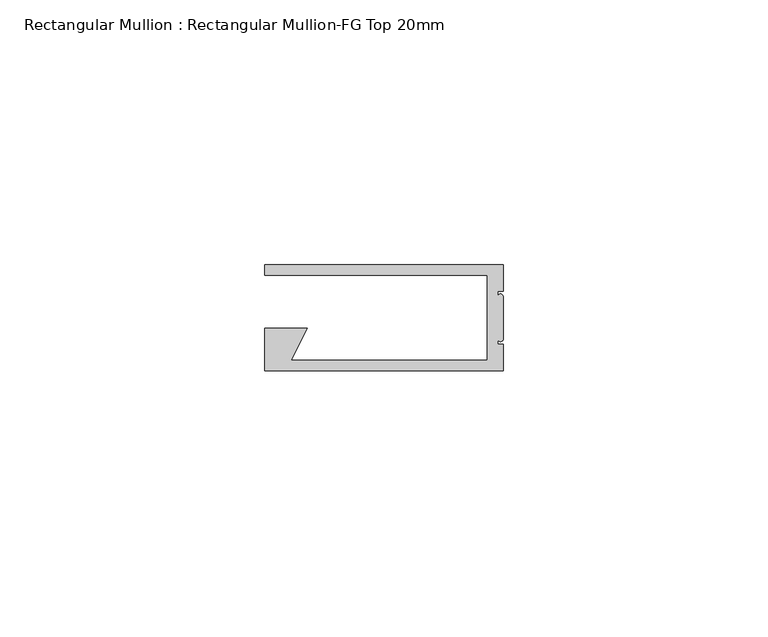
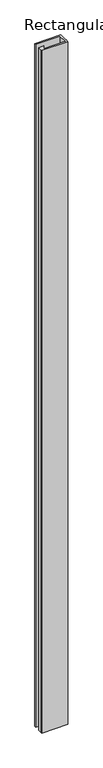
"""IFC4 building model written with IfcOpenShell, lengths in millimetres: member geometry, Rectangular Mullion : Rectangular Mullion-FG Top 20mm."""

from ifc_helpers import new_model, si_unit, frame, origin, place, context, project, spatial, circle_curve, source, transform, mapped, element, save
from ifc_brep_helpers import plane_surface, cylinder_surface, advanced_brep


def rectangular_mullion_rectangular_mullion_fg_top_20mm_12d62298(model_context):
    return source(origin(), model_context, "Body", "AdvancedBrep", [
        advanced_brep(
        [(0.0, -5.0, 0.0), (0.0, 0.0, 0.0), (-45.0, 0.0, 0.0), (-45.0, -2.0, 0.0), (-3.0, -2.0, 0.0), (-3.0, -18.0, 0.0), (-40.0, -18.0, 0.0), (-37.0, -12.0, 0.0), (-45.0, -12.0, 0.0), (-45.0, -18.0, 0.0), (-45.0, -20.0, 0.0), (0.0, -20.0, 0.0), (0.0, -15.0, 0.0), (-1.0, -15.0, 0.0), (-1.0, -14.0, 0.0), (0.0, -14.0, 0.0), (0.0, -6.0, 0.0), (-1.0, -6.0, 0.0), (-1.0, -5.0, 0.0), (0.0, -5.0, -1246.0), (-1.0, -5.0, -1246.0), (-1.0, -6.0, -1246.0), (0.0, -6.0, -1246.0), (0.0, -14.0, -1246.0), (-1.0, -14.0, -1246.0), (-1.0, -15.0, -1246.0), (0.0, -15.0, -1246.0), (0.0, -20.0, -1246.0), (-45.0, -20.0, -1246.0), (-45.0, -18.0, -1246.0), (-45.0, -12.0, -1246.0), (-37.0, -12.0, -1246.0), (-40.0, -18.0, -1246.0), (-3.0, -18.0, -1246.0), (-3.0, -2.0, -1246.0), (-45.0, -2.0, -1246.0), (-45.0, 0.0, -1246.0), (0.0, 0.0, -1246.0)],
        [
            (0, 1),
            (1, 2),
            (2, 3),
            (3, 4),
            (4, 5),
            (5, 6),
            (6, 7),
            (7, 8),
            (8, 9),
            (9, 10),
            (10, 11),
            (11, 12),
            (12, 13),
            (13, 14),
            (14, 15, circle_curve(frame((-0.5, -14.0, 0.0), z_axis=(0.0, 0.0, 1.0), x_axis=(1.0, 0.0, 0.0)), 0.5)),
            (15, 16),
            (16, 17, circle_curve(frame((-0.5, -6.0, 0.0), z_axis=(0.0, 0.0, 1.0), x_axis=(1.0, 0.0, 0.0)), 0.5)),
            (17, 18),
            (18, 0),
            (19, 20),
            (20, 21),
            (21, 22, circle_curve(frame((-0.5, -6.0, -1246.0), z_axis=(0.0, 0.0, -1.0), x_axis=(1.0, 0.0, 0.0)), 0.5)),
            (22, 23),
            (23, 24, circle_curve(frame((-0.5, -14.0, -1246.0), z_axis=(0.0, 0.0, -1.0), x_axis=(1.0, 0.0, 0.0)), 0.5)),
            (24, 25),
            (25, 26),
            (26, 27),
            (27, 28),
            (28, 29),
            (29, 30),
            (30, 31),
            (31, 32),
            (32, 33),
            (33, 34),
            (34, 35),
            (35, 36),
            (36, 37),
            (37, 19),
            (0, 19),
            (37, 1),
            (36, 2),
            (35, 3),
            (34, 4),
            (33, 5),
            (32, 6),
            (31, 7),
            (30, 8),
            (29, 9),
            (28, 10),
            (27, 11),
            (26, 12),
            (25, 13),
            (24, 14),
            (23, 15),
            (22, 16),
            (21, 17),
            (20, 18),
        ],
        [
            plane_surface(frame((0.0, -49.244289, 0.0), z_axis=(0.0, 0.0, 1.0), x_axis=(-1.0, 0.0, 0.0))),
            plane_surface(frame((0.0, -49.244289, -1246.0), z_axis=(0.0, 0.0, -1.0), x_axis=(-1.0, 0.0, 0.0))),
            plane_surface(frame((0.0, -5.0, 0.0), z_axis=(1.0, 0.0, 0.0), x_axis=(0.0, 0.0, -1.0))),
            plane_surface(frame((0.0, 0.0, 0.0), z_axis=(0.0, 1.0, 0.0), x_axis=(0.0, 0.0, -1.0))),
            plane_surface(frame((-45.0, 0.0, 0.0), z_axis=(-1.0, 0.0, 0.0), x_axis=(0.0, 0.0, -1.0))),
            plane_surface(frame((-45.0, -2.0, 0.0), z_axis=(0.0, -1.0, 0.0), x_axis=(0.0, 0.0, -1.0))),
            plane_surface(frame((-3.0, -2.0, 0.0), z_axis=(-1.0, 0.0, 0.0), x_axis=(0.0, 0.0, -1.0))),
            plane_surface(frame((-3.0, -18.0, 0.0), z_axis=(0.0, 1.0, 0.0), x_axis=(0.0, 0.0, -1.0))),
            plane_surface(frame((-40.0, -18.0, 0.0), z_axis=(0.8944271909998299, -0.4472135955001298, 0.0), x_axis=(0.0, 0.0, -1.0))),
            plane_surface(frame((-37.0, -12.0, 0.0), z_axis=(0.0, 1.0, 0.0), x_axis=(0.0, 0.0, -1.0))),
            plane_surface(frame((-45.0, -12.0, 0.0), z_axis=(-1.0, 0.0, 0.0), x_axis=(0.0, 0.0, -1.0))),
            plane_surface(frame((-45.0, -18.0, 0.0), z_axis=(-1.0, 0.0, 0.0), x_axis=(0.0, 0.0, -1.0))),
            plane_surface(frame((-45.0, -20.0, 0.0), z_axis=(0.0, -1.0, 0.0), x_axis=(0.0, 0.0, -1.0))),
            plane_surface(frame((0.0, -20.0, 0.0), z_axis=(1.0, 0.0, 0.0), x_axis=(0.0, 0.0, -1.0))),
            plane_surface(frame((0.0, -15.0, 0.0), z_axis=(0.0, 1.0, 0.0), x_axis=(0.0, 0.0, -1.0))),
            plane_surface(frame((-1.0, -15.0, 0.0), z_axis=(1.0, 0.0, 0.0), x_axis=(0.0, 0.0, -1.0))),
            cylinder_surface(frame((-0.5, -14.0, 0.0), z_axis=(0.0, 0.0, 1.0), x_axis=(1.0, 0.0, 0.0)), 0.5),
            plane_surface(frame((0.0, -14.0, 0.0), z_axis=(1.0, 0.0, 0.0), x_axis=(0.0, 0.0, -1.0))),
            cylinder_surface(frame((-0.5, -6.0, 0.0), z_axis=(0.0, 0.0, 1.0), x_axis=(1.0, 0.0, 0.0)), 0.5),
            plane_surface(frame((-1.0, -6.0, 0.0), z_axis=(1.0, 0.0, 0.0), x_axis=(0.0, 0.0, -1.0))),
            plane_surface(frame((-1.0, -5.0, 0.0), z_axis=(0.0, -1.0, 0.0), x_axis=(0.0, 0.0, -1.0))),
        ],
        [
            (0, [[1, 2, 3, 4, 5, 6, 7, 8, 9, 10, 11, 12, 13, 14, 15, 16, 17, 18, 19]]),
            (1, [[20, 21, 22, 23, 24, 25, 26, 27, 28, 29, 30, 31, 32, 33, 34, 35, 36, 37, 38]]),
            (2, [[-1, 39, -38, 40]]),
            (3, [[-2, -40, -37, 41]]),
            (4, [[-3, -41, -36, 42]]),
            (5, [[-4, -42, -35, 43]]),
            (6, [[-5, -43, -34, 44]]),
            (7, [[-6, -44, -33, 45]]),
            (8, [[-7, -45, -32, 46]]),
            (9, [[-8, -46, -31, 47]]),
            (10, [[-9, -47, -30, 48]]),
            (11, [[-10, -48, -29, 49]]),
            (12, [[-11, -49, -28, 50]]),
            (13, [[-12, -50, -27, 51]]),
            (14, [[-13, -51, -26, 52]]),
            (15, [[-14, -52, -25, 53]]),
            (16, [[-15, -53, -24, 54]]),
            (17, [[-16, -54, -23, 55]]),
            (18, [[-17, -55, -22, 56]]),
            (19, [[-18, -56, -21, 57]]),
            (20, [[-19, -57, -20, -39]]),
        ],
    ),
    ])


if __name__ == "__main__":
    model = new_model("IFC4")
    model_context = context("Model", 3, world=origin())
    ifc_project = project(units=[si_unit("LENGTHUNIT", "METRE", prefix="MILLI")], contexts=[model_context])
    site = spatial("IfcSite", under=ifc_project)
    building = spatial("IfcBuilding", under=site)
    placement = place(None, origin())
    rectangular_mullion_rectangular_mullion_fg_top_20mm_shape = rectangular_mullion_rectangular_mullion_fg_top_20mm_12d62298(model_context)
    element("IfcMember", 1, ObjectType="Rectangular Mullion : Rectangular Mullion-FG Top 20mm", at=placement, inside=building, context=model_context, shape_type="MappedRepresentation", body=[
        mapped(rectangular_mullion_rectangular_mullion_fg_top_20mm_shape, transform((0.0, 0.0, 0.0), x_axis=(1.0, 0.0, 0.0), y_axis=(0.0, 1.0, 0.0), z_axis=(0.0, 0.0, 1.0))),
    ])
    save(model, "model.ifc")
